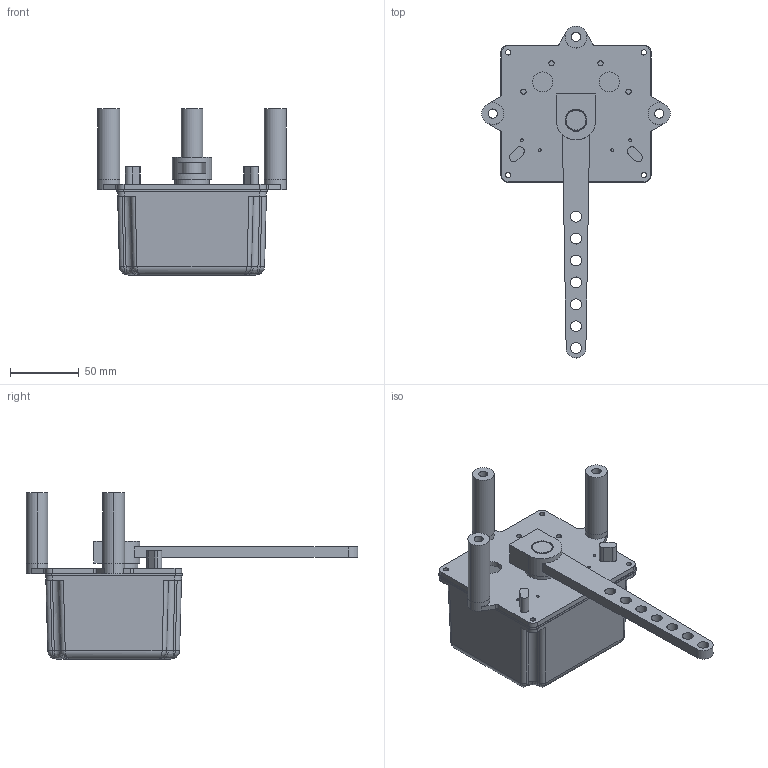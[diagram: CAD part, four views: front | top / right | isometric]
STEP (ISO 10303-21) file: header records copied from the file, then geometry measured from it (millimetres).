
FILE_DESCRIPTION (( 'STEP AP214' ), '1' );
FILE_NAME ('7163.STEP', '2019-05-30T19:08:51', ( '' ), ( '' ), 'SwSTEP 2.0', 'SolidWorks 2019', '' );
FILE_SCHEMA (( 'AUTOMOTIVE_DESIGN' ));
Length unit declared in the file: inch
Products named in the file (1): 7163
Bounding box: 136.53 x 240.51 x 120.33 mm (x, y, z)
Surface area: 100544.6 mm2 (no closed solid volume)
Topology: 0 solids, 14 shells, 279 faces, 1137 edges, 863 vertices
Faces by surface type: cylinder 158, plane 95, bspline 24, cone 2
Entity records: 16322 total; most frequent: CARTESIAN_POINT 3414, DIRECTION 1961, ORIENTED_EDGE 1740, EDGE_CURVE 1129, VERTEX_POINT 863, AXIS2_PLACEMENT_3D 746, CIRCLE 490, LINE 469
